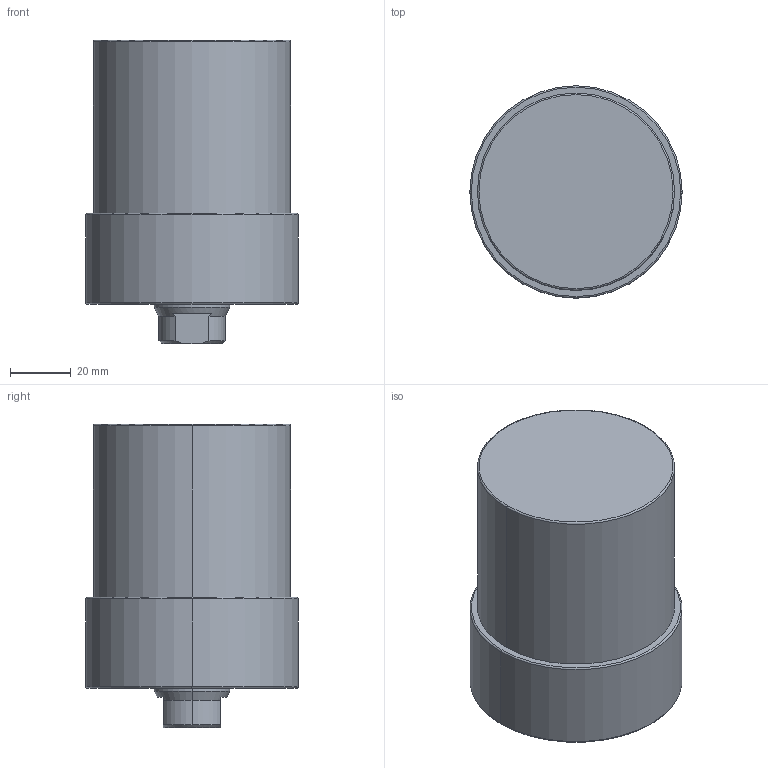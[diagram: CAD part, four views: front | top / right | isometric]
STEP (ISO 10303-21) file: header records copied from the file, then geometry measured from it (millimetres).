
FILE_DESCRIPTION (( 'STEP AP203' ), '1' );
FILE_NAME ('CLLU-065GA-040.STEP', '2020-01-06T08:08:35', ( '' ), ( '' ), 'SwSTEP 2.0', 'SolidWorks 2015', '' );
FILE_SCHEMA (( 'CONFIG_CONTROL_DESIGN' ));
Length unit declared in the file: millimetre
Products named in the file (1): CLLU-065GA-040
Bounding box: 70 x 70 x 100 mm (x, y, z)
Volume: 305134.3 mm3; surface area: 28803.4 mm2
Topology: 1 solids, 1 shells, 64 faces, 145 edges, 82 vertices
Faces by surface type: cone 25, cylinder 23, plane 10, torus 6
Entity records: 1811 total; most frequent: DIRECTION 332, CARTESIAN_POINT 310, ORIENTED_EDGE 270, AXIS2_PLACEMENT_3D 140, EDGE_CURVE 135, VERTEX_POINT 82, CIRCLE 75, EDGE_LOOP 73
